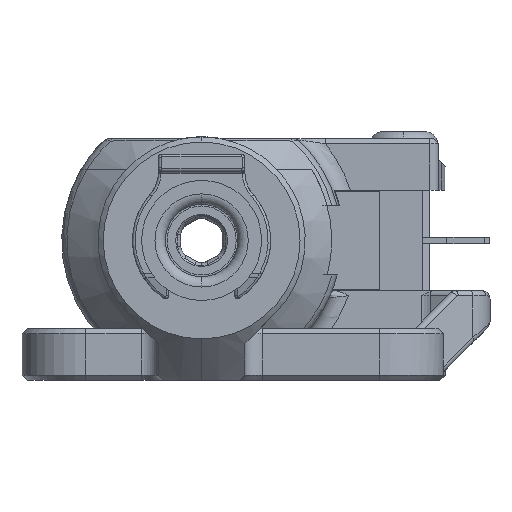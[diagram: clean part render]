
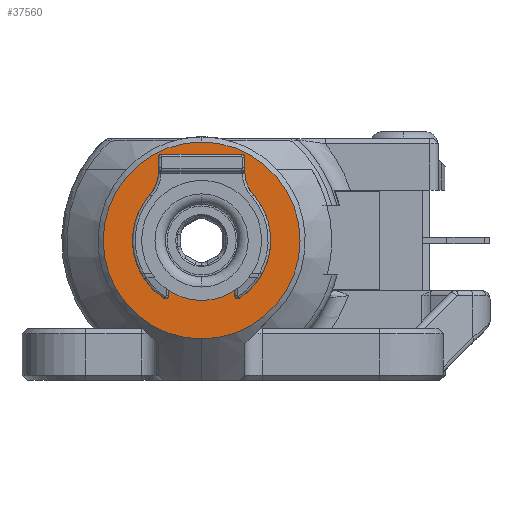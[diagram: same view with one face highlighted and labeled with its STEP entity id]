
A CAD part, left-side view. The second image highlights one B-rep face of the part: STEP entity #37560.
In plain terms, the highlighted planar face has unit normal (-1, 0, 0).
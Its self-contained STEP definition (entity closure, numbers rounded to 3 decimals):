
#818 = AXIS2_PLACEMENT_3D ( 'NONE', #10409, #18799, #50741 ) ;
#967 = DIRECTION ( 'NONE',  ( 0., 0., 1. ) ) ;
#1455 = CARTESIAN_POINT ( 'NONE',  ( 0., 0., 0. ) ) ;
#1746 = FACE_OUTER_BOUND ( 'NONE', #2567, .T. ) ;
#2567 = EDGE_LOOP ( 'NONE', ( #36518, #10629 ) ) ;
#5023 = ORIENTED_EDGE ( 'NONE', *, *, #19769, .F. ) ;
#5069 = DIRECTION ( 'NONE',  ( 0., 0., 1. ) ) ;
#9314 = DIRECTION ( 'NONE',  ( -1., 0., 0. ) ) ;
#10409 = CARTESIAN_POINT ( 'NONE',  ( 0., 0., 0. ) ) ;
#10629 = ORIENTED_EDGE ( 'NONE', *, *, #18831, .T. ) ;
#13163 = DIRECTION ( 'NONE',  ( -1., 0., 0. ) ) ;
#13963 = AXIS2_PLACEMENT_3D ( 'NONE', #50667, #37535, #14780 ) ;
#14199 = CARTESIAN_POINT ( 'NONE',  ( 0., 0., 0. ) ) ;
#14780 = DIRECTION ( 'NONE',  ( 0., 0., 1. ) ) ;
#15923 = VERTEX_POINT ( 'NONE', #32865 ) ;
#17534 = CIRCLE ( 'NONE', #818, 5.7 ) ;
#18799 = DIRECTION ( 'NONE',  ( -1., 0., 0. ) ) ;
#18831 = EDGE_CURVE ( 'NONE', #19931, #15923, #17534, .T. ) ;
#19769 = EDGE_CURVE ( 'NONE', #35396, #29476, #36626, .T. ) ;
#19931 = VERTEX_POINT ( 'NONE', #41745 ) ;
#22547 = CARTESIAN_POINT ( 'NONE',  ( 0., 0., 3.05 ) ) ;
#25015 = DIRECTION ( 'NONE',  ( 0., 0., 1. ) ) ;
#29209 = DIRECTION ( 'NONE',  ( -1., 0., 0. ) ) ;
#29460 = FACE_BOUND ( 'NONE', #46689, .T. ) ;
#29476 = VERTEX_POINT ( 'NONE', #45470 ) ;
#31735 = ORIENTED_EDGE ( 'NONE', *, *, #36027, .F. ) ;
#32474 = AXIS2_PLACEMENT_3D ( 'NONE', #1455, #9314, #25015 ) ;
#32624 = PLANE ( 'NONE',  #33220 ) ;
#32865 = CARTESIAN_POINT ( 'NONE',  ( 0., 0., -5.7 ) ) ;
#33220 = AXIS2_PLACEMENT_3D ( 'NONE', #48655, #29209, #967 ) ;
#35396 = VERTEX_POINT ( 'NONE', #22547 ) ;
#36027 = EDGE_CURVE ( 'NONE', #29476, #35396, #36500, .T. ) ;
#36500 = CIRCLE ( 'NONE', #13963, 3.05 ) ;
#36518 = ORIENTED_EDGE ( 'NONE', *, *, #51549, .T. ) ;
#36626 = CIRCLE ( 'NONE', #32474, 3.05 ) ;
#37535 = DIRECTION ( 'NONE',  ( -1., 0., 0. ) ) ;
#37560 = ADVANCED_FACE ( 'NONE', ( #29460, #1746 ), #32624, .T. ) ;
#41745 = CARTESIAN_POINT ( 'NONE',  ( 0., 0., 5.7 ) ) ;
#44085 = CIRCLE ( 'NONE', #48314, 5.7 ) ;
#45470 = CARTESIAN_POINT ( 'NONE',  ( 0., 0., -3.05 ) ) ;
#46689 = EDGE_LOOP ( 'NONE', ( #5023, #31735 ) ) ;
#48314 = AXIS2_PLACEMENT_3D ( 'NONE', #14199, #13163, #5069 ) ;
#48655 = CARTESIAN_POINT ( 'NONE',  ( 0., -6., 0. ) ) ;
#50667 = CARTESIAN_POINT ( 'NONE',  ( 0., 0., 0. ) ) ;
#50741 = DIRECTION ( 'NONE',  ( 0., 0., 1. ) ) ;
#51549 = EDGE_CURVE ( 'NONE', #15923, #19931, #44085, .T. ) ;
